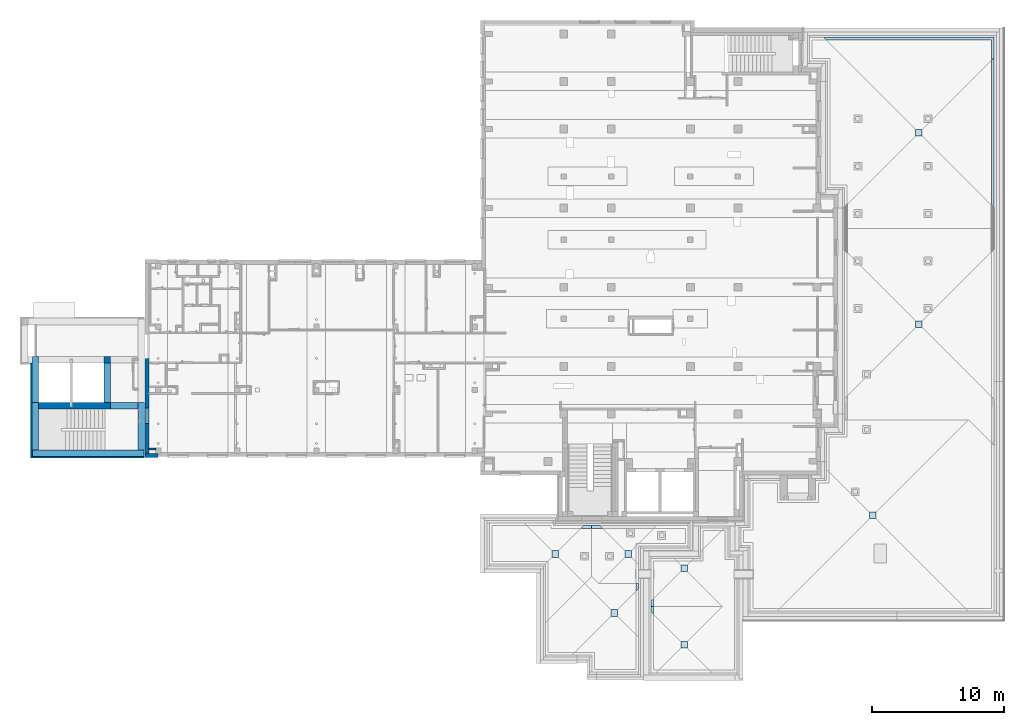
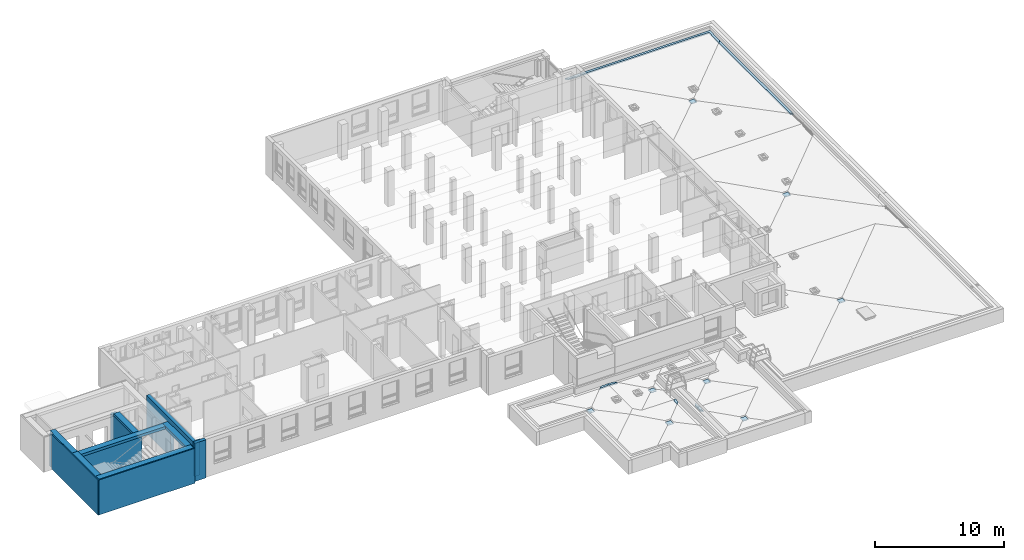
# One storey, part 7 of 50: 15 slabs, 13 walls, 1 opening, 3 elements without a shape of their own.
"""IFC4 building model written with IfcOpenShell, lengths in metres."""

from ifc_helpers import new_model, entity, si_unit, converted_unit, derived_unit, frame, frame_2d, origin, origin_with_axes, place, context, subcontext, project, spatial, polyline, rectangle, outline, extrude, clip, bounded_halfspace, material, layer, layer_set, layer_usage, element, aggregate, save


model = new_model("IFC4")

# Units and contexts
model_context = context("Model", 3, precision=1e-05, world=origin())
body_context = subcontext(model_context, "Body", "Model", "MODEL_VIEW")
ifc_project = project(units=[si_unit("LENGTHUNIT", "METRE"), si_unit("AREAUNIT", "SQUARE_METRE"), si_unit("VOLUMEUNIT", "CUBIC_METRE"), si_unit("MASSUNIT", "GRAM", prefix="KILO"), converted_unit("PLANEANGLEUNIT", "DEGREE", entity("IfcPlaneAngleMeasure", 0.0174532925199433), si_unit("PLANEANGLEUNIT", "RADIAN"), dimensions=[0, 0, 0, 0, 0, 0, 0]), derived_unit("THERMALTRANSMITTANCEUNIT", [(si_unit("POWERUNIT", "WATT"), 1), (si_unit("THERMODYNAMICTEMPERATUREUNIT", "KELVIN"), -1), (si_unit("LENGTHUNIT", "METRE"), -2)]), derived_unit("VOLUMETRICFLOWRATEUNIT", [(si_unit("LENGTHUNIT", "METRE"), 3), (converted_unit("TIMEUNIT", "hour", entity("IfcTimeMeasure", 3600.0), si_unit("TIMEUNIT", "SECOND"), dimensions=[0, 0, 1, 0, 0, 0, 0]), -1), (si_unit("LENGTHUNIT", "METRE"), -1)])], contexts=[model_context])

# Site, building, storey
site_placement = place(None, origin())
site = spatial("IfcSite", under=ifc_project, at=site_placement, Name="3. ASŘ", CompositionType="ELEMENT")
building_placement = place(site_placement, origin())
building = spatial("IfcBuilding", under=site, at=building_placement, Name="Pavilon C", CompositionType="ELEMENT")
storey_placement = place(building_placement, frame((0.0, 0.0, 3.6)))
storey = spatial("IfcBuildingStorey", under=building, at=storey_placement, Name="Půdorys 2.NP", CompositionType="ELEMENT", Elevation=3.6)

# Roof, slabs
roof_1_placement = place(storey_placement, frame((0.0, 0.0, -3.6)))
roof_1 = element("IfcRoof", 1, at=roof_1_placement, inside=storey, PredefinedType="NOTDEFINED")
ifc_material_1 = material(Name="ASFALTOVÁ HYDROIZOLACE")
ifc_layer_1 = layer(ifc_material_1, 0.01)
ifc_material_2 = material(Name="II.S2 - KAČÍREK")
ifc_layer_2 = layer(ifc_material_2, 0.12)
ifc_layer_set_1 = layer_set([ifc_layer_1, ifc_layer_2])
ifc_layer_usage_1 = layer_usage(ifc_layer_set_1, "AXIS3", "POSITIVE", 0.0)
slab_1_placement = place(roof_1_placement, frame((36.22, -9.85517189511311, 3.83304686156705)))
slab_1 = element("IfcSlab", 2, at=slab_1_placement, material=ifc_layer_usage_1, PredefinedType="ROOF", context=body_context, shape_type="SweptSolid", body=[
    extrude(outline(polyline([(0.100000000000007, 0.345812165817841), (-0.1, 0.145537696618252), (-0.100000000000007, -0.245674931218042), (0.1, -0.245674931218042), (0.100000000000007, 0.345812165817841)])), frame((0.1, 0.345338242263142, 0.0180984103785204), z_axis=(1.09408962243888e-15, -0.0523359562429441, 0.998629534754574), x_axis=(-1.0, -2.0905123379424e-14, 0.0)), (0.0, -0.0523359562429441, 0.998629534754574), 0.13017840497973),
])
ifc_material_3 = material(Name="ASFALTOVÁ HYDROIZOLACE")
ifc_layer_3 = layer(ifc_material_3, 0.01)
ifc_material_4 = material(Name="II.S2 - KAČÍREK")
ifc_layer_4 = layer(ifc_material_4, 0.12)
ifc_layer_set_2 = layer_set([ifc_layer_3, ifc_layer_4])
ifc_layer_usage_2 = layer_usage(ifc_layer_set_2, "AXIS3", "POSITIVE", 0.0)
slab_2_placement = place(roof_1_placement, frame((32.8685977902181, -5.08, 3.84909331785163)))
slab_2 = element("IfcSlab", 3, at=slab_2_placement, material=ifc_layer_usage_2, PredefinedType="ROOF", context=body_context, shape_type="SweptSolid", body=[
    extrude(outline(polyline([(-0.0999999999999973, 0.25605112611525), (-0.100000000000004, -0.35618836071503), (0.0999999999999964, -0.356188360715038), (0.100000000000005, 0.456325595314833), (-0.0999999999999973, 0.25605112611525)])), frame((0.355700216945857, 0.1, 0.0238822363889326), z_axis=(0.0523359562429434, 5.04298352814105e-16, 0.998629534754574), x_axis=(9.63579131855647e-15, -1.0, 0.0)), (0.0, -0.0523359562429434, 0.998629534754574), 0.130178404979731),
])
ifc_material_5 = material(Name="ASFALTOVÁ HYDROIZOLACE")
ifc_layer_5 = layer(ifc_material_5, 0.01)
ifc_material_6 = material(Name="II.S2 - KAČÍREK")
ifc_layer_6 = layer(ifc_material_6, 0.12)
ifc_layer_set_3 = layer_set([ifc_layer_5, ifc_layer_6])
ifc_layer_usage_3 = layer_usage(ifc_layer_set_3, "AXIS3", "POSITIVE", 0.0)
slab_3_placement = place(roof_1_placement, frame((32.0571973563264, -5.08, 3.84909331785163)))
slab_3 = element("IfcSlab", 4, at=slab_3_placement, material=ifc_layer_usage_3, PredefinedType="ROOF", context=body_context, shape_type="SweptSolid", body=[
    extrude(outline(polyline([(0.100000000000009, -0.356188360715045), (0.0999999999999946, 0.25605112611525), (-0.100000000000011, 0.45632559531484), (-0.0999999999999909, -0.356188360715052), (0.100000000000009, -0.356188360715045)])), frame((0.455700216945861, 0.1, 0.0238822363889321), z_axis=(-0.052335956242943, 1.24478707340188e-15, 0.998629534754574), x_axis=(2.37845481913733e-14, 1.0, 0.0)), (0.0, -0.052335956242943, 0.998629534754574), 0.13017840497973),
])
aggregate(roof_1, [slab_1, slab_2, slab_3])

roof_2_placement = place(storey_placement, frame((0.0, 0.0, -3.6)))
roof_2 = element("IfcRoof", 5, at=roof_2_placement, inside=storey, PredefinedType="NOTDEFINED")
ifc_material_7 = material(Name="ASFALTOVÁ HYDROIZOLACE")
ifc_layer_7 = layer(ifc_material_7, 0.01)
ifc_material_8 = material(Name="KAČÍREK")
ifc_layer_8 = layer(ifc_material_8, 0.12)
ifc_layer_set_4 = layer_set([ifc_layer_7, ifc_layer_8])
ifc_layer_usage_4 = layer_usage(ifc_layer_set_4, "AXIS3", "POSITIVE", 0.0)
slab_4_placement = place(roof_2_placement, frame((37.36, -11.0, 3.79195000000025)))
slab_4 = element("IfcSlab", 6, at=slab_4_placement, material=ifc_layer_usage_4, PredefinedType="ROOF", context=body_context, shape_type="SweptSolid", body=[
    extrude(outline(polyline([(0.100000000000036, 0.342654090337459), (-0.0999999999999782, 0.14256411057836), (-0.100000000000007, -0.242609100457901), (0.0999999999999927, -0.242609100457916), (0.100000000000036, 0.342654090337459)])), frame((0.0999999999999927, 0.242499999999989, 0.0102750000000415), z_axis=(-2.20242413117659e-15, 0.0299865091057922, 0.999550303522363), x_axis=(1.0, 7.34471666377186e-14, 0.0)), (0.0, -0.0299865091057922, 0.999550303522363), 0.13005848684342),
])
ifc_material_9 = material(Name="ASFALTOVÁ HYDROIZOLACE")
ifc_layer_9 = layer(ifc_material_9, 0.01)
ifc_material_10 = material(Name="KAČÍREK")
ifc_layer_10 = layer(ifc_material_10, 0.12)
ifc_layer_set_5 = layer_set([ifc_layer_9, ifc_layer_10])
ifc_layer_usage_5 = layer_usage(ifc_layer_set_5, "AXIS3", "POSITIVE", 0.0)
slab_5_placement = place(roof_2_placement, frame((37.36, -11.585, 3.79195000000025)))
slab_5 = element("IfcSlab", 7, at=slab_5_placement, material=ifc_layer_usage_5, PredefinedType="ROOF", context=body_context, shape_type="SweptSolid", body=[
    extrude(outline(polyline([(-0.0999999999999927, -0.242609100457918), (0.100000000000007, -0.242609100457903), (0.0999999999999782, 0.142564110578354), (-0.100000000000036, 0.342654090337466), (-0.0999999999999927, -0.242609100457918)])), frame((0.0999999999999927, 0.3425, 0.0102750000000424), z_axis=(-2.20125262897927e-15, -0.0299865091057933, 0.999550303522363), x_axis=(-1.0, 7.34080989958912e-14, 0.0)), (0.0, -0.0299865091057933, 0.999550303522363), 0.130058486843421),
])
aggregate(roof_2, [slab_4, slab_5])

roof_3_placement = place(storey_placement, frame((0.0, 0.0, -3.6)))
roof_3 = element("IfcRoof", 8, at=roof_3_placement, inside=storey, PredefinedType="NOTDEFINED")
ifc_material_11 = material(Name="ASFALTOVÁ HYDROIZOLACE")
ifc_layer_11 = layer(ifc_material_11, 0.01)
ifc_material_12 = material(Name="KAČÍREK")
ifc_layer_12 = layer(ifc_material_12, 0.12)
ifc_layer_set_6 = layer_set([ifc_layer_11, ifc_layer_12])
ifc_layer_usage_6 = layer_usage(ifc_layer_set_6, "AXIS3", "POSITIVE", 0.0)
slab_6_placement = place(roof_3_placement, frame((63.19, 19.19, 4.08780000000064)))
slab_6 = element("IfcSlab", 9, at=slab_6_placement, material=ifc_layer_usage_6, PredefinedType="ROOF", context=body_context, shape_type="SweptSolid", body=[
    extrude(outline(polyline([(-5.50999999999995, 0.100044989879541), (-5.70999999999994, -0.100044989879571), (5.70999999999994, -0.100044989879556), (5.50999999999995, 0.100044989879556), (-5.50999999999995, 0.100044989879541)])), frame((0.1, 5.70999999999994, 0.00300000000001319), z_axis=(-0.0299865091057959, 4.0511840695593e-17, 0.999550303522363), x_axis=(1.35100223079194e-15, 1.0, 0.0)), (0.0, -0.0299865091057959, 0.999550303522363), 0.13005848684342),
])
ifc_material_13 = material(Name="ASFALTOVÁ HYDROIZOLACE")
ifc_layer_13 = layer(ifc_material_13, 0.01)
ifc_material_14 = material(Name="KAČÍREK")
ifc_layer_14 = layer(ifc_material_14, 0.12)
ifc_layer_set_7 = layer_set([ifc_layer_13, ifc_layer_14])
ifc_layer_usage_7 = layer_usage(ifc_layer_set_7, "AXIS3", "POSITIVE", 0.0)
slab_7_placement = place(roof_3_placement, frame((50.4399999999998, 30.4099999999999, 4.08780000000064)))
slab_7 = element("IfcSlab", 10, at=slab_7_placement, material=ifc_layer_usage_7, PredefinedType="ROOF", context=body_context, shape_type="SweptSolid", body=[
    extrude(outline(polyline([(-4.35000000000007, 0.920413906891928), (-4.35000000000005, -0.610274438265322), (8.60000000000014, -0.610274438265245), (8.40000000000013, -0.410184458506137), (-4.15000000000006, -0.41018445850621), (-4.15000000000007, 1.12050388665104), (-4.35000000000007, 0.920413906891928)])), frame((8.60000000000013, 1.12000000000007, 0.03360000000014), z_axis=(-1.80892282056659e-16, -0.0299865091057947, 0.999550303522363), x_axis=(-1.0, 6.03245550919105e-15, 0.0)), (0.0, -0.0299865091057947, 0.999550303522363), 0.130058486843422),
])
aggregate(roof_3, [slab_6, slab_7])

# Slabs
ifc_material_15 = material(Name="SPÁDOVÉ KLÍNY PIR 3%")
slab_8_placement = place(storey_placement, frame((29.8571955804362, -7.28000177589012, 0.11)))
element("IfcSlab", 11, at=slab_8_placement, inside=storey, material=ifc_material_15, PredefinedType="FLOOR", context=body_context, shape_type="SweptSolid", body=[
    extrude(rectangle(XDim=0.499999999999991, YDim=0.499999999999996, at=frame_2d((0.249999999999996, -0.249999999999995), x_axis=(0.0, -1.0))), frame((0.0, 0.499999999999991, 0.0), z_axis=(0.0, 0.0, 1.0), x_axis=(1.0, 0.0, 0.0)), (0.0, 0.0, 1.0), 0.02),
])
ifc_material_16 = material(Name="SPÁDOVÉ KLÍNY PIR 3%")
slab_9_placement = place(storey_placement, frame((35.38, -7.28000177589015, 0.11)))
element("IfcSlab", 12, at=slab_9_placement, inside=storey, material=ifc_material_16, PredefinedType="FLOOR", context=body_context, shape_type="SweptSolid", body=[
    extrude(rectangle(XDim=0.499999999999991, YDim=0.5, at=frame_2d((0.25, -0.249999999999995), x_axis=(0.0, -1.0))), frame((0.0, 0.499999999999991, 0.0), z_axis=(0.0, 0.0, 1.0), x_axis=(1.0, 0.0, 0.0)), (0.0, 0.0, 1.0), 0.02),
])
ifc_material_17 = material(Name="SPÁDOVÉ KLÍNY PIR 3%")
slab_10_placement = place(storey_placement, frame((39.625, -14.15, 0.11)))
element("IfcSlab", 13, at=slab_10_placement, inside=storey, material=ifc_material_17, PredefinedType="FLOOR", context=body_context, shape_type="SweptSolid", body=[
    extrude(rectangle(XDim=0.5, YDim=0.499999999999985, at=frame_2d((0.249999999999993, -0.25), x_axis=(0.0, -1.0))), frame((0.0, 0.5, 0.0), z_axis=(0.0, 0.0, 1.0), x_axis=(1.0, 0.0, 0.0)), (0.0, 0.0, 1.0), 0.02),
])
ifc_material_18 = material(Name="SPÁDOVÉ KLÍNY PIR 3%")
slab_11_placement = place(storey_placement, frame((39.625, -8.34999999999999, 0.11)))
element("IfcSlab", 14, at=slab_11_placement, inside=storey, material=ifc_material_18, PredefinedType="FLOOR", context=body_context, shape_type="SweptSolid", body=[
    extrude(rectangle(XDim=0.5, YDim=0.499999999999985, at=frame_2d((0.249999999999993, -0.25), x_axis=(0.0, -1.0))), frame((0.0, 0.5, 0.0), z_axis=(0.0, 0.0, 1.0), x_axis=(1.0, 0.0, 0.0)), (0.0, 0.0, 1.0), 0.02),
])
ifc_material_19 = material(Name="SPÁDOVÉ KLÍNY PIR 3%")
slab_12_placement = place(storey_placement, frame((53.93, -4.35, 0.31)))
element("IfcSlab", 15, at=slab_12_placement, inside=storey, material=ifc_material_19, PredefinedType="FLOOR", context=body_context, shape_type="SweptSolid", body=[
    extrude(rectangle(XDim=0.5, YDim=0.499999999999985, at=frame_2d((0.249999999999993, -0.25), x_axis=(0.0, -1.0))), frame((0.0, 0.5, 0.0), z_axis=(0.0, 0.0, 1.0), x_axis=(1.0, 0.0, 0.0)), (0.0, 0.0, 1.0), 0.02),
])
ifc_material_20 = material(Name="SPÁDOVÉ KLÍNY PIR 3%")
slab_13_placement = place(storey_placement, frame((57.43, 10.15, 0.31)))
element("IfcSlab", 16, at=slab_13_placement, inside=storey, material=ifc_material_20, PredefinedType="FLOOR", context=body_context, shape_type="SweptSolid", body=[
    extrude(rectangle(XDim=0.5, YDim=0.499999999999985, at=frame_2d((0.249999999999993, -0.25), x_axis=(0.0, -1.0))), frame((0.0, 0.5, 0.0), z_axis=(0.0, 0.0, 1.0), x_axis=(1.0, 0.0, 0.0)), (0.0, 0.0, 1.0), 0.02),
])
ifc_material_21 = material(Name="SPÁDOVÉ KLÍNY PIR 3%")
slab_14_placement = place(storey_placement, frame((57.43, 24.65, 0.31)))
element("IfcSlab", 17, at=slab_14_placement, inside=storey, material=ifc_material_21, PredefinedType="FLOOR", context=body_context, shape_type="SweptSolid", body=[
    extrude(rectangle(XDim=0.5, YDim=0.499999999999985, at=frame_2d((0.249999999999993, -0.25), x_axis=(0.0, -1.0))), frame((0.0, 0.5, 0.0), z_axis=(0.0, 0.0, 1.0), x_axis=(1.0, 0.0, 0.0)), (0.0, 0.0, 1.0), 0.02),
])
ifc_material_22 = material(Name="SPÁDOVÉ KLÍNY PIR 3%")
slab_15_placement = place(storey_placement, frame((34.3261828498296, -11.7489890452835, 0.11)))
element("IfcSlab", 18, at=slab_15_placement, inside=storey, material=ifc_material_22, PredefinedType="FLOOR", context=body_context, shape_type="SweptSolid", body=[
    extrude(rectangle(XDim=0.499999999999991, YDim=0.5, at=frame_2d((0.25, -0.249999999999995), x_axis=(0.0, -1.0))), frame((0.0, 0.499999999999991, 0.0), z_axis=(0.0, 0.0, 1.0), x_axis=(1.0, 0.0, 0.0)), (0.0, 0.0, 1.0), 0.02),
])

# Walls
ifc_material_23 = material(Name="ZDIVO Z CDm")
ifc_layer_15 = layer(ifc_material_23, 0.5)
ifc_layer_set_8 = layer_set([ifc_layer_15])
ifc_layer_usage_8 = layer_usage(ifc_layer_set_8, "AXIS2", "POSITIVE", 0.0)
wall_1_placement = place(storey_placement, frame((-9.07499999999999, 3.95, -0.22)))
element("IfcWall", 19, at=wall_1_placement, inside=storey, material=ifc_layer_usage_8, Name="ZDIVO Z CDm", context=body_context, shape_type="SweptSolid", body=[
    extrude(rectangle(XDim=5.45, YDim=0.5, at=frame_2d((2.725, 0.25), x_axis=(1.0, 0.0))), origin_with_axes(), (0.0, 0.0, 1.0), 3.05),
])
ifc_material_24 = material(Name="ZDIVO Z CDm")
ifc_layer_16 = layer(ifc_material_24, 0.5)
ifc_layer_set_9 = layer_set([ifc_layer_16])
ifc_layer_usage_9 = layer_usage(ifc_layer_set_9, "AXIS2", "POSITIVE", 0.0)
wall_2_placement = place(storey_placement, frame((-3.62499999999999, 4.45, -0.22), z_axis=(0.0, 0.0, 1.0), x_axis=(0.0, 1.0, 0.0)))
element("IfcWall", 20, at=wall_2_placement, inside=storey, material=ifc_layer_usage_9, Name="ZDIVO Z CDm", context=body_context, shape_type="SweptSolid", body=[
    extrude(rectangle(XDim=3.5, YDim=0.5, at=frame_2d((1.75, 0.25), x_axis=(1.0, 0.0))), origin_with_axes(), (0.0, 0.0, 1.0), 3.05),
])

# Wall, opening
ifc_material_25 = material(Name="ZELEZOBETONOVÁ KCE")
ifc_layer_17 = layer(ifc_material_25, 0.3)
ifc_layer_set_10 = layer_set([ifc_layer_17])
ifc_layer_usage_10 = layer_usage(ifc_layer_set_10, "AXIS2", "POSITIVE", 0.0)
wall_3_placement = place(storey_placement, frame((-0.999999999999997, 7.79999999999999, -0.1), z_axis=(0.0, 0.0, 1.0), x_axis=(-1.8947806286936e-16, -1.0, 0.0)))
wall_3 = element("IfcWall", 21, at=wall_3_placement, inside=storey, material=ifc_layer_usage_10, Name="ZELEZOBETONOVÁ KCE", context=body_context, shape_type="SweptSolid", body=[
    extrude(rectangle(XDim=7.19999999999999, YDim=0.3, at=frame_2d((3.59999999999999, 0.15), x_axis=(1.0, 0.0))), origin_with_axes(), (0.0, 0.0, 1.0), 3.6),
])
opening_placement = place(wall_3_placement, frame((3.75, 2.8421709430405e-17, 0.1), z_axis=(0.0, 1.0, 0.0), x_axis=(0.0, 0.0, 1.0)))
element("IfcOpeningElement", 22, at=opening_placement, cuts=wall_3, Name="Dveřní otvor", ObjectType="Opening", context=body_context, shape_type="SweptSolid", body=[
    extrude(outline(polyline([(0.0, 1.2), (2.1, 1.2), (2.1, 0.0), (0.0, 0.0), (0.0, 1.2)])), origin_with_axes(), (0.0, 0.0, 1.0), 0.3),
])

# Walls
ifc_material_26 = material(Name="ZELEZOBETONOVÁ KCE")
ifc_layer_18 = layer(ifc_material_26, 0.3)
ifc_layer_set_11 = layer_set([ifc_layer_18])
ifc_layer_usage_11 = layer_usage(ifc_layer_set_11, "AXIS2", "POSITIVE", 0.0)
wall_4_placement = place(storey_placement, frame((-0.999999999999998, 0.300000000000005, -0.1)))
element("IfcWall", 23, at=wall_4_placement, inside=storey, material=ifc_layer_usage_11, Name="ZELEZOBETONOVÁ KCE", context=body_context, shape_type="SweptSolid", body=[
    extrude(rectangle(XDim=1.0, YDim=0.3, at=frame_2d((0.500000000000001, 0.15), x_axis=(1.0, 0.0))), origin_with_axes(), (0.0, 0.0, 1.0), 3.6),
])
ifc_material_27 = material(Name="EPS")
ifc_layer_19 = layer(ifc_material_27, 0.1)
ifc_material_28 = material(Name="ZDIVO Z CDm")
ifc_layer_20 = layer(ifc_material_28, 0.499999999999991)
ifc_layer_set_12 = layer_set([ifc_layer_19, ifc_layer_20])
ifc_layer_usage_12 = layer_usage(ifc_layer_set_12, "AXIS2", "POSITIVE", -0.1)
wall_5_placement = place(storey_placement, frame((-9.67499999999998, 7.45, -0.22), z_axis=(0.0, 0.0, 1.0), x_axis=(-1.26318708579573e-15, -1.0, 0.0)))
element("IfcWall", 24, at=wall_5_placement, inside=storey, material=ifc_layer_usage_12, Name="ZDIVO Z CDm", context=body_context, shape_type="Clipping", body=[
    clip(extrude(outline(polyline([(-7.2, 0.0), (0.0, 0.0), (-1.26318708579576e-16, 0.100000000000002), (-0.0999999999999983, 0.100000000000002), (-0.0999999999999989, 0.599999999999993), (-7.69999999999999, 0.599999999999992), (-7.69999999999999, 0.0999999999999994), (-7.2, 0.1), (-7.2, 0.0)])), frame((7.2, 0.0, 0.0), z_axis=(0.0, 0.0, 1.0), x_axis=(1.0, 0.0, 0.0)), (0.0, 0.0, 1.0), 3.3), bounded_halfspace(frame((2.64, 0.299999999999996, 3.05), z_axis=(0.0, 0.0, -1.0), x_axis=(1.0, 2.38404323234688e-16, 0.0)), True, origin_with_axes(), polyline([(7.83175993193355e-16, 0.1), (7.1, 0.100000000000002), (7.1, 0.599999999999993), (-0.499999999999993, 0.599999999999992), (-0.499999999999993, 0.0999999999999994), (7.83175993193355e-16, 0.1)]))),
])
ifc_material_29 = material(Name="EPS")
ifc_layer_21 = layer(ifc_material_29, 0.0999999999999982)
ifc_material_30 = material(Name="ZDIVO Z CDm")
ifc_layer_22 = layer(ifc_material_30, 0.499999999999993)
ifc_layer_set_13 = layer_set([ifc_layer_21, ifc_layer_22])
ifc_layer_usage_13 = layer_usage(ifc_layer_set_13, "AXIS2", "POSITIVE", -0.1)
wall_6_placement = place(storey_placement, frame((-9.57499999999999, 0.250000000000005, -0.22)))
element("IfcWall", 25, at=wall_6_placement, inside=storey, material=ifc_layer_usage_13, Name="ZDIVO Z CDm", context=body_context, shape_type="Clipping", body=[
    clip(extrude(outline(polyline([(0.499999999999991, 0.599999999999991), (0.499999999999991, 0.0999999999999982), (0.0, 0.0999999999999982), (0.0, 0.0), (8.54999999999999, 0.0), (8.54999999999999, 0.599999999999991), (0.499999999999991, 0.599999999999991)])), origin_with_axes(), (0.0, 0.0, 1.0), 3.3), bounded_halfspace(frame((4.52499999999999, 0.349999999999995, 3.05), z_axis=(0.0, 0.0, -1.0), x_axis=(1.0, 0.0, 0.0)), True, origin_with_axes(), polyline([(0.499999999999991, 0.0999999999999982), (8.54999999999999, 0.0999999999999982), (8.54999999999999, 0.599999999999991), (0.499999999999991, 0.599999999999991), (0.499999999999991, 0.0999999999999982)]))),
])
ifc_material_31 = material(Name="ZDIVO Z CDm")
ifc_layer_23 = layer(ifc_material_31, 0.125)
ifc_layer_set_14 = layer_set([ifc_layer_23])
ifc_layer_usage_14 = layer_usage(ifc_layer_set_14, "AXIS2", "POSITIVE", 0.0)
wall_7_placement = place(storey_placement, frame((-0.199999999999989, 1.0, -0.1), z_axis=(0.0, 0.0, 1.0), x_axis=(-1.0, 2.27373675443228e-16, 0.0)))
element("IfcWall", 26, at=wall_7_placement, inside=storey, material=ifc_layer_usage_14, Name="ZDIVO Z CDm", context=body_context, shape_type="SweptSolid", body=[
    extrude(rectangle(XDim=0.500000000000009, YDim=0.125, at=frame_2d((0.250000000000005, 0.0625), x_axis=(1.0, 0.0))), origin_with_axes(), (0.0, 0.0, 1.0), 3.35),
])
ifc_material_32 = material(Name="ZELEZOBETONOVÁ KCE")
ifc_layer_24 = layer(ifc_material_32, 0.5)
ifc_layer_set_15 = layer_set([ifc_layer_24])
ifc_layer_usage_15 = layer_usage(ifc_layer_set_15, "AXIS2", "POSITIVE", 0.0)
wall_8_placement = place(storey_placement, frame((-4.12499999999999, 7.45, 2.83), z_axis=(0.0, 0.0, 1.0), x_axis=(0.0, -1.0, 0.0)))
element("IfcWall", 27, at=wall_8_placement, inside=storey, material=ifc_layer_usage_15, context=body_context, shape_type="SweptSolid", body=[
    extrude(rectangle(XDim=3.0, YDim=0.5, at=frame_2d((1.5, 0.25), x_axis=(1.0, 0.0))), origin_with_axes(), (0.0, 0.0, 1.0), 0.25),
])
ifc_material_33 = material(Name="ZELEZOBETONOVÁ KCE")
ifc_layer_25 = layer(ifc_material_33, 0.5)
ifc_layer_set_16 = layer_set([ifc_layer_25])
ifc_layer_usage_16 = layer_usage(ifc_layer_set_16, "AXIS2", "POSITIVE", 0.0)
wall_9_placement = place(storey_placement, frame((-1.52499999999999, 4.45, 2.83), z_axis=(0.0, 0.0, 1.0), x_axis=(-1.0, 0.0, 0.0)))
element("IfcWall", 28, at=wall_9_placement, inside=storey, material=ifc_layer_usage_16, context=body_context, shape_type="SweptSolid", body=[
    extrude(rectangle(XDim=7.55, YDim=0.5, at=frame_2d((3.775, 0.25), x_axis=(1.0, 0.0))), origin_with_axes(), (0.0, 0.0, 1.0), 0.25),
])
ifc_material_34 = material(Name="ZELEZOBETONOVÁ KCE")
ifc_layer_26 = layer(ifc_material_34, 0.45)
ifc_material_35 = material(Name="LIGNOPOR")
ifc_layer_27 = layer(ifc_material_35, 0.05)
ifc_layer_set_17 = layer_set([ifc_layer_26, ifc_layer_27])
ifc_layer_usage_17 = layer_usage(ifc_layer_set_17, "AXIS2", "POSITIVE", 0.0)
wall_10_placement = place(storey_placement, frame((-9.07499999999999, 4.45, 2.83), z_axis=(0.0, 0.0, 1.0), x_axis=(0.0, 1.0, 0.0)))
element("IfcWall", 29, at=wall_10_placement, inside=storey, material=ifc_layer_usage_17, context=body_context, shape_type="SweptSolid", body=[
    extrude(outline(polyline([(0.0, -0.5), (3.5, -0.5), (3.5, -0.05), (3.05, -0.05), (3.05, 0.0), (0.0, 0.0), (0.0, -0.5)])), frame((0.0, 0.5, 0.0), z_axis=(0.0, 0.0, 1.0), x_axis=(1.0, 0.0, 0.0)), (0.0, 0.0, 1.0), 0.25),
])
ifc_material_36 = material(Name="ZELEZOBETONOVÁ KCE")
ifc_layer_28 = layer(ifc_material_36, 0.45)
ifc_material_37 = material(Name="LIGNOPOR")
ifc_layer_29 = layer(ifc_material_37, 0.05)
ifc_layer_set_18 = layer_set([ifc_layer_28, ifc_layer_29])
ifc_layer_usage_18 = layer_usage(ifc_layer_set_18, "AXIS2", "POSITIVE", 0.0)
wall_11_placement = place(storey_placement, frame((-9.075, 0.850000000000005, 2.83), z_axis=(0.0, 0.0, 1.0), x_axis=(2.02109933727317e-15, 1.0, 0.0)))
element("IfcWall", 30, at=wall_11_placement, inside=storey, material=ifc_layer_usage_18, context=body_context, shape_type="SweptSolid", body=[
    extrude(outline(polyline([(0.0, 0.0), (1.01054966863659e-16, -0.05), (0.45, -0.0499999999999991), (0.450000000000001, -0.499999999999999), (4.05, -0.499999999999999), (4.05, 9.09494701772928e-16), (0.0, 0.0)])), frame((-0.450000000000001, 0.499999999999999, 0.0), z_axis=(0.0, 0.0, 1.0), x_axis=(1.0, 0.0, 0.0)), (0.0, 0.0, 1.0), 0.25),
])
ifc_material_38 = material(Name="ZELEZOBETONOVÁ KCE")
ifc_layer_30 = layer(ifc_material_38, 0.45)
ifc_material_39 = material(Name="LIGNOPOR")
ifc_layer_31 = layer(ifc_material_39, 0.05)
ifc_layer_set_19 = layer_set([ifc_layer_30, ifc_layer_31])
ifc_layer_usage_19 = layer_usage(ifc_layer_set_19, "AXIS2", "POSITIVE", 0.0)
wall_12_placement = place(storey_placement, frame((-1.075, 0.850000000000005, 2.83), z_axis=(0.0, 0.0, 1.0), x_axis=(-1.0, 0.0, 0.0)))
element("IfcWall", 31, at=wall_12_placement, inside=storey, material=ifc_layer_usage_19, context=body_context, shape_type="SweptSolid", body=[
    extrude(outline(polyline([(-8.5, -0.5), (-0.05, -0.5), (-0.05, -0.05), (0.0, -0.05), (0.0, 0.0), (-8.55, 0.0), (-8.55, -0.05), (-8.5, -0.05), (-8.5, -0.5)])), frame((8.5, 0.5, 0.0), z_axis=(0.0, 0.0, 1.0), x_axis=(1.0, 0.0, 0.0)), (0.0, 0.0, 1.0), 0.25),
])
ifc_material_40 = material(Name="ZELEZOBETONOVÁ KCE")
ifc_layer_32 = layer(ifc_material_40, 0.45)
ifc_material_41 = material(Name="LIGNOPOR")
ifc_layer_33 = layer(ifc_material_41, 0.05)
ifc_layer_set_20 = layer_set([ifc_layer_32, ifc_layer_33])
ifc_layer_usage_20 = layer_usage(ifc_layer_set_20, "AXIS2", "POSITIVE", 0.0)
wall_13_placement = place(storey_placement, frame((-1.52499999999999, 4.45, 2.83), z_axis=(0.0, 0.0, 1.0), x_axis=(-2.02109933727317e-15, -1.0, 0.0)))
element("IfcWall", 32, at=wall_13_placement, inside=storey, material=ifc_layer_usage_20, context=body_context, shape_type="SweptSolid", body=[
    extrude(outline(polyline([(-4.05, -9.09494701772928e-16), (-0.45, -9.09494701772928e-16), (-0.450000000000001, 0.45), (-9.09494701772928e-16, 0.45), (-1.01054966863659e-15, 0.5), (-4.05, 0.499999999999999), (-4.05, -9.09494701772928e-16)])), frame((4.05, 9.09494701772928e-16, 0.0), z_axis=(0.0, 0.0, 1.0), x_axis=(1.0, 0.0, 0.0)), (0.0, 0.0, 1.0), 0.25),
])

save(model, "model.ifc")
